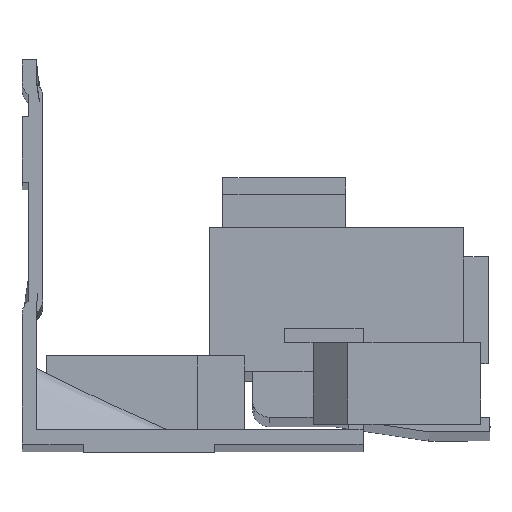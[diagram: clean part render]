
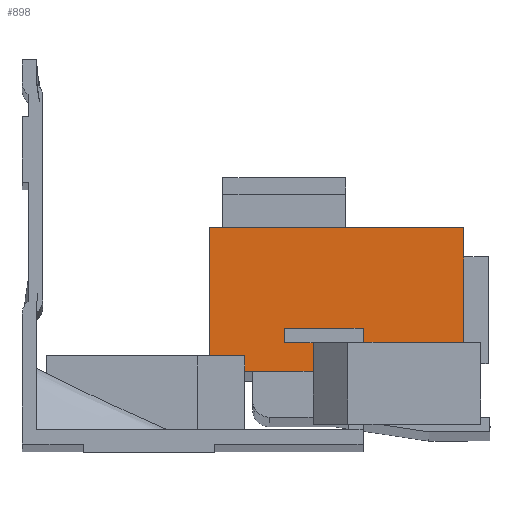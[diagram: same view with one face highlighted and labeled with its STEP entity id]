
A CAD part, front view. The second image highlights one B-rep face of the part: STEP entity #898.
In plain terms, the highlighted planar face has unit normal (0, -1, 0).
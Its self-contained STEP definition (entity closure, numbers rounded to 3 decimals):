
#99 = EDGE_CURVE ( 'NONE', #618, #658, #2962, .T. ) ;
#110 = EDGE_CURVE ( 'NONE', #658, #686, #2984, .T. ) ;
#117 = EDGE_CURVE ( 'NONE', #775, #686, #2998, .T. ) ;
#146 = EDGE_CURVE ( 'NONE', #877, #775, #3054, .T. ) ;
#153 = EDGE_CURVE ( 'NONE', #743, #730, #3068, .T. ) ;
#154 = EDGE_CURVE ( 'NONE', #701, #743, #3070, .T. ) ;
#155 = EDGE_CURVE ( 'NONE', #701, #700, #3072, .T. ) ;
#156 = EDGE_CURVE ( 'NONE', #700, #748, #3074, .T. ) ;
#157 = EDGE_CURVE ( 'NONE', #748, #877, #3076, .T. ) ;
#158 = EDGE_CURVE ( 'NONE', #692, #618, #3078, .T. ) ;
#159 = EDGE_CURVE ( 'NONE', #697, #692, #3080, .T. ) ;
#160 = EDGE_CURVE ( 'NONE', #730, #697, #3082, .T. ) ;
#618 = VERTEX_POINT ( 'NONE', #4192 ) ;
#658 = VERTEX_POINT ( 'NONE', #4232 ) ;
#686 = VERTEX_POINT ( 'NONE', #4260 ) ;
#692 = VERTEX_POINT ( 'NONE', #4266 ) ;
#697 = VERTEX_POINT ( 'NONE', #4271 ) ;
#700 = VERTEX_POINT ( 'NONE', #4274 ) ;
#701 = VERTEX_POINT ( 'NONE', #4275 ) ;
#730 = VERTEX_POINT ( 'NONE', #4304 ) ;
#743 = VERTEX_POINT ( 'NONE', #4317 ) ;
#748 = VERTEX_POINT ( 'NONE', #4322 ) ;
#775 = VERTEX_POINT ( 'NONE', #4371 ) ;
#877 = VERTEX_POINT ( 'NONE', #4742 ) ;
#898 = ADVANCED_FACE ( 'NONE', ( #3631 ), #4785, .F. ) ;
#1211 = CARTESIAN_POINT ( 'NONE',  ( 53.9, -20., -9.558 ) ) ;
#1212 = DIRECTION ( 'NONE',  ( 1., 0., 0. ) ) ;
#1233 = CARTESIAN_POINT ( 'NONE',  ( 53.9, -20., -29.558 ) ) ;
#1234 = DIRECTION ( 'NONE',  ( 0., 0., -1. ) ) ;
#1247 = CARTESIAN_POINT ( 'NONE',  ( 49.9, -20., -23.558 ) ) ;
#1248 = DIRECTION ( 'NONE',  ( 1., 0., 0. ) ) ;
#1309 = CARTESIAN_POINT ( 'NONE',  ( 41.6, -20., -35.931 ) ) ;
#1310 = DIRECTION ( 'NONE',  ( 0., 0., -1. ) ) ;
#1323 = CARTESIAN_POINT ( 'NONE',  ( 49.9, -20., -27.058 ) ) ;
#1324 = DIRECTION ( 'NONE',  ( -1., 0., 0. ) ) ;
#1325 = CARTESIAN_POINT ( 'NONE',  ( 35.5, -20., -27.058 ) ) ;
#1326 = DIRECTION ( 'NONE',  ( 0., 0., -1. ) ) ;
#1327 = CARTESIAN_POINT ( 'NONE',  ( 32., -20., -23.608 ) ) ;
#1328 = DIRECTION ( 'NONE',  ( -1., 0., 0. ) ) ;
#1329 = CARTESIAN_POINT ( 'NONE',  ( 32., -20., -21.831 ) ) ;
#1330 = DIRECTION ( 'NONE',  ( 0., 0., 1. ) ) ;
#1331 = CARTESIAN_POINT ( 'NONE',  ( 41.6, -20., -21.858 ) ) ;
#1332 = DIRECTION ( 'NONE',  ( 1., 0., 0. ) ) ;
#1333 = CARTESIAN_POINT ( 'NONE',  ( 22.9, -20., -27.058 ) ) ;
#1334 = DIRECTION ( 'NONE',  ( 0., 0., 1. ) ) ;
#1335 = CARTESIAN_POINT ( 'NONE',  ( 49.9, -20., -25.181 ) ) ;
#1336 = DIRECTION ( 'NONE',  ( -1., 0., 0. ) ) ;
#1337 = CARTESIAN_POINT ( 'NONE',  ( 27.15, -20., -27.058 ) ) ;
#1338 = DIRECTION ( 'NONE',  ( 0., 0., 1. ) ) ;
#1747 = AXIS2_PLACEMENT_3D ( 'NONE', #4786, #4787, #4788 ) ;
#2298 = EDGE_LOOP ( 'NONE', ( #2676, #2675, #2674, #2673, #2672, #2671, #2670, #2669, #2668, #2667, #2666, #2665 ) ) ;
#2665 = ORIENTED_EDGE ( 'NONE', *, *, #160, .F. ) ;
#2666 = ORIENTED_EDGE ( 'NONE', *, *, #159, .F. ) ;
#2667 = ORIENTED_EDGE ( 'NONE', *, *, #158, .F. ) ;
#2668 = ORIENTED_EDGE ( 'NONE', *, *, #99, .F. ) ;
#2669 = ORIENTED_EDGE ( 'NONE', *, *, #110, .F. ) ;
#2670 = ORIENTED_EDGE ( 'NONE', *, *, #117, .T. ) ;
#2671 = ORIENTED_EDGE ( 'NONE', *, *, #146, .T. ) ;
#2672 = ORIENTED_EDGE ( 'NONE', *, *, #157, .T. ) ;
#2673 = ORIENTED_EDGE ( 'NONE', *, *, #156, .T. ) ;
#2674 = ORIENTED_EDGE ( 'NONE', *, *, #155, .T. ) ;
#2675 = ORIENTED_EDGE ( 'NONE', *, *, #154, .F. ) ;
#2676 = ORIENTED_EDGE ( 'NONE', *, *, #153, .F. ) ;
#2962 = LINE ( 'NONE', #1211, #2963 ) ;
#2963 = VECTOR ( 'NONE', #1212, 1000. ) ;
#2984 = LINE ( 'NONE', #1233, #2985 ) ;
#2985 = VECTOR ( 'NONE', #1234, 1000. ) ;
#2998 = LINE ( 'NONE', #1247, #2999 ) ;
#2999 = VECTOR ( 'NONE', #1248, 1000. ) ;
#3054 = LINE ( 'NONE', #1309, #3055 ) ;
#3055 = VECTOR ( 'NONE', #1310, 1000. ) ;
#3068 = LINE ( 'NONE', #1323, #3069 ) ;
#3069 = VECTOR ( 'NONE', #1324, 1000. ) ;
#3070 = LINE ( 'NONE', #1325, #3071 ) ;
#3071 = VECTOR ( 'NONE', #1326, 1000. ) ;
#3072 = LINE ( 'NONE', #1327, #3073 ) ;
#3073 = VECTOR ( 'NONE', #1328, 1000. ) ;
#3074 = LINE ( 'NONE', #1329, #3075 ) ;
#3075 = VECTOR ( 'NONE', #1330, 1000. ) ;
#3076 = LINE ( 'NONE', #1331, #3077 ) ;
#3077 = VECTOR ( 'NONE', #1332, 1000. ) ;
#3078 = LINE ( 'NONE', #1333, #3079 ) ;
#3079 = VECTOR ( 'NONE', #1334, 1000. ) ;
#3080 = LINE ( 'NONE', #1335, #3081 ) ;
#3081 = VECTOR ( 'NONE', #1336, 1000. ) ;
#3082 = LINE ( 'NONE', #1337, #3083 ) ;
#3083 = VECTOR ( 'NONE', #1338, 1000. ) ;
#3631 = FACE_OUTER_BOUND ( 'NONE', #2298, .T. ) ;
#4192 = CARTESIAN_POINT ( 'NONE',  ( 22.9, -20., -9.558 ) ) ;
#4232 = CARTESIAN_POINT ( 'NONE',  ( 53.9, -20., -9.558 ) ) ;
#4260 = CARTESIAN_POINT ( 'NONE',  ( 53.9, -20., -23.558 ) ) ;
#4266 = CARTESIAN_POINT ( 'NONE',  ( 22.9, -20., -25.181 ) ) ;
#4271 = CARTESIAN_POINT ( 'NONE',  ( 27.15, -20., -25.181 ) ) ;
#4274 = CARTESIAN_POINT ( 'NONE',  ( 32., -20., -23.608 ) ) ;
#4275 = CARTESIAN_POINT ( 'NONE',  ( 35.5, -20., -23.608 ) ) ;
#4304 = CARTESIAN_POINT ( 'NONE',  ( 27.15, -20., -27.058 ) ) ;
#4317 = CARTESIAN_POINT ( 'NONE',  ( 35.5, -20., -27.058 ) ) ;
#4322 = CARTESIAN_POINT ( 'NONE',  ( 32., -20., -21.858 ) ) ;
#4371 = CARTESIAN_POINT ( 'NONE',  ( 41.6, -20., -23.558 ) ) ;
#4742 = CARTESIAN_POINT ( 'NONE',  ( 41.6, -20., -21.858 ) ) ;
#4785 = PLANE ( 'NONE',  #1747 ) ;
#4786 = CARTESIAN_POINT ( 'NONE',  ( 49.9, -20., -27.058 ) ) ;
#4787 = DIRECTION ( 'NONE',  ( 0., 1., 0. ) ) ;
#4788 = DIRECTION ( 'NONE',  ( 1., 0., 0. ) ) ;
